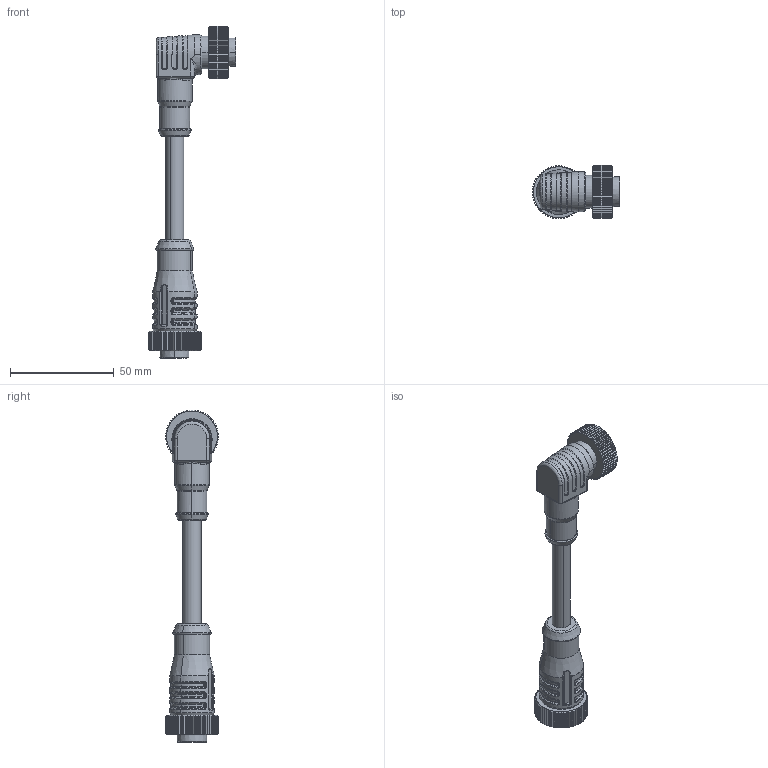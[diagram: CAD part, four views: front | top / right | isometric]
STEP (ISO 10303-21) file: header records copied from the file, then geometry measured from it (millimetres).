
FILE_DESCRIPTION (( 'STEP AP203' ), '1' );
FILE_NAME ('0PI261-XXX.STEP', '2023-11-17T07:32:30', ( 'ADMIN' ), ( '' ), 'SwSTEP 2.0', 'SolidWorks 2016', '' );
FILE_SCHEMA (( 'CONFIG_CONTROL_DESIGN' ));
Length unit declared in the file: millimetre
Products named in the file (1): 0PI261-XXX
Bounding box: 42.11 x 25.5 x 160.27 mm (x, y, z)
Volume: 36056.4 mm3; surface area: 16316.6 mm2
Topology: 1 solids, 16 shells, 1587 faces, 4062 edges, 2404 vertices
Faces by surface type: cone 538, plane 463, cylinder 312, bspline 274
Entity records: 104646 total; most frequent: CARTESIAN_POINT 69860, ORIENTED_EDGE 8090, DIRECTION 6436, EDGE_CURVE 4045, AXIS2_PLACEMENT_3D 2710, VERTEX_POINT 2404, EDGE_LOOP 1655, ADVANCED_FACE 1587
